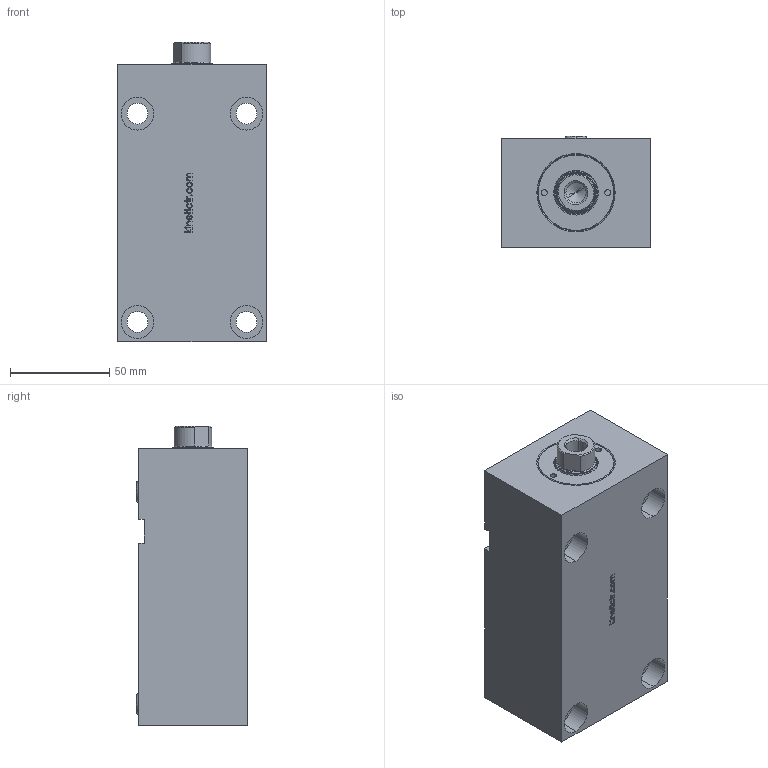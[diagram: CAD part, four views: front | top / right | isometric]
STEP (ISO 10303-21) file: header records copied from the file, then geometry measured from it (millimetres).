
FILE_DESCRIPTION (( 'STEP AP214' ), '1' );
FILE_NAME ('KBZ_11_32_20_90.STEP', '2019-09-15T15:09:23', ( '' ), ( '' ), 'SwSTEP 2.0', 'SolidWorks 2018', '' );
FILE_SCHEMA (( 'AUTOMOTIVE_DESIGN' ));
Length unit declared in the file: millimetre
Products named in the file (6): KBZ_11_32_20_90; K06-20X25X4_3X6; KBZ_11_32_ON_kapak_W; KO-6X2_5; KBZ_11_20_MIL_W; kbz_11_32_20_govde_W
Assembly tree (6 placements, depth 2):
  KBZ_11_32_20_90
    kbz_11_32_20_govde_W
    KBZ_11_20_MIL_W
    KBZ_11_32_ON_kapak_W
    K06-20X25X4_3X6
    KO-6X2_5  x2
Bounding box: 75 x 56 x 151 mm (x, y, z)
Volume: 543829.8 mm3; surface area: 67515.8 mm2
Topology: 6 solids, 6 shells, 325 faces, 785 edges, 504 vertices
Faces by surface type: plane 137, bspline 77, cylinder 62, cone 49
Entity records: 12988 total; most frequent: CARTESIAN_POINT 5553, ORIENTED_EDGE 1550, DIRECTION 1308, EDGE_CURVE 775, VERTEX_POINT 500, VECTOR 438, LINE 438, AXIS2_PLACEMENT_3D 435
